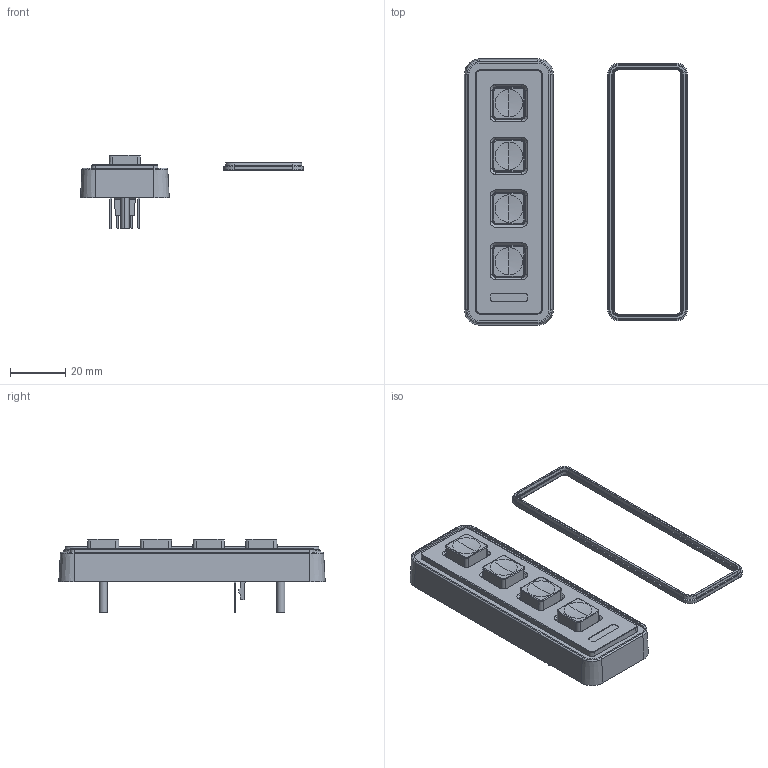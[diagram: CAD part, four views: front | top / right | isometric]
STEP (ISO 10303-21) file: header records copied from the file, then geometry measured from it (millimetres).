
FILE_DESCRIPTION (( 'STEP AP214' ), '1' );
FILE_NAME ('720 SERIES 4 KEY ASSEMBLY.STEP', '2013-10-04T15:00:48', ( '' ), ( '' ), 'SwSTEP 2.0', 'SolidWorks 2013', '' );
FILE_SCHEMA (( 'AUTOMOTIVE_DESIGN' ));
Length unit declared in the file: millimetre
Products named in the file (3): SEAL 4 KEY; 7204-020101~1; 720 SERIES 4 KEY ASSEMBLY
Assembly tree (2 placements, depth 2):
  720 SERIES 4 KEY ASSEMBLY
    7204-020101~1
    SEAL 4 KEY
Bounding box: 80.4 x 96 x 26.46 mm (x, y, z)
Volume: 1092.9 mm3; surface area: 17177.8 mm2
Topology: 1 solids, 21 shells, 557 faces, 1692 edges, 1184 vertices
Faces by surface type: plane 296, cone 136, cylinder 69, torus 48, sphere 8
Entity records: 23968 total; most frequent: CARTESIAN_POINT 3619, DIRECTION 3260, ORIENTED_EDGE 2894, EDGE_CURVE 1692, VERTEX_POINT 1184, LINE 1144, VECTOR 1144, AXIS2_PLACEMENT_3D 1058
